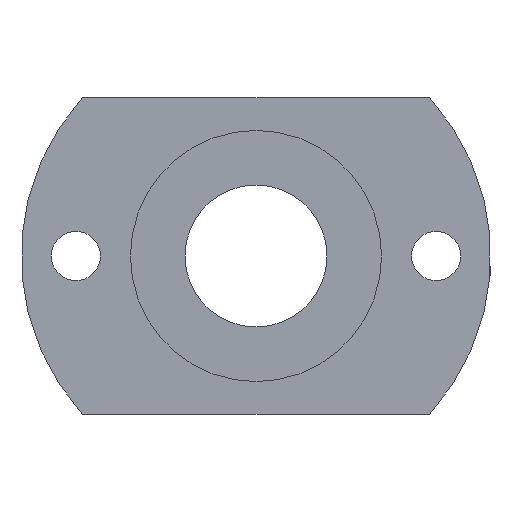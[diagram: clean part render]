
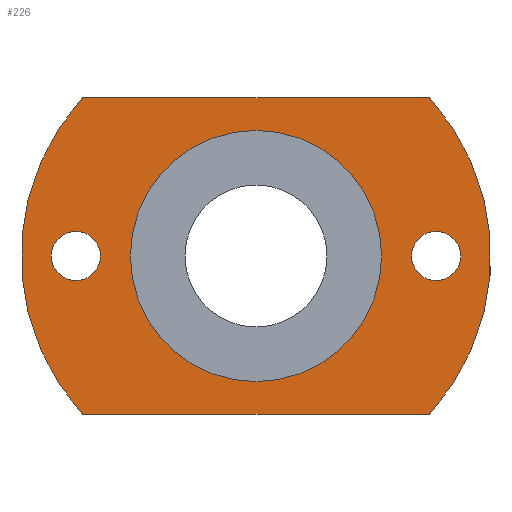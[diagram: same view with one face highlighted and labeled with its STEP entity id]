
A CAD part, left-side view. The second image highlights one B-rep face of the part: STEP entity #226.
In plain terms, the highlighted planar face has unit normal (-1, 0, 0).
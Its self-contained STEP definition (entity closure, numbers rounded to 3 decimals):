
#24=PLANE('',#267);
#31=LINE('',#392,#39);
#32=LINE('',#396,#40);
#39=VECTOR('',#326,1000.);
#40=VECTOR('',#329,1000.);
#64=ORIENTED_EDGE('',*,*,#108,.T.);
#65=ORIENTED_EDGE('',*,*,#109,.F.);
#66=ORIENTED_EDGE('',*,*,#110,.T.);
#67=ORIENTED_EDGE('',*,*,#93,.F.);
#68=ORIENTED_EDGE('',*,*,#111,.T.);
#69=ORIENTED_EDGE('',*,*,#112,.T.);
#70=ORIENTED_EDGE('',*,*,#100,.T.);
#93=EDGE_CURVE('',#117,#118,#136,.T.);
#100=EDGE_CURVE('',#124,#124,#142,.T.);
#108=EDGE_CURVE('',#117,#131,#31,.T.);
#109=EDGE_CURVE('',#132,#131,#148,.T.);
#110=EDGE_CURVE('',#132,#118,#32,.T.);
#111=EDGE_CURVE('',#133,#133,#149,.T.);
#112=EDGE_CURVE('',#134,#134,#150,.T.);
#117=VERTEX_POINT('',#356);
#118=VERTEX_POINT('',#358);
#124=VERTEX_POINT('',#374);
#131=VERTEX_POINT('',#393);
#132=VERTEX_POINT('',#395);
#133=VERTEX_POINT('',#398);
#134=VERTEX_POINT('',#400);
#136=CIRCLE('',#249,21.5);
#142=CIRCLE('',#258,11.5);
#148=CIRCLE('',#268,21.5);
#149=CIRCLE('',#269,2.25);
#150=CIRCLE('',#270,2.25);
#166=EDGE_LOOP('',(#64,#65,#66,#67));
#167=EDGE_LOOP('',(#68));
#168=EDGE_LOOP('',(#69));
#169=EDGE_LOOP('',(#70));
#196=FACE_BOUND('',#166,.T.);
#197=FACE_BOUND('',#167,.T.);
#198=FACE_BOUND('',#168,.T.);
#199=FACE_BOUND('',#169,.T.);
#226=ADVANCED_FACE('',(#196,#197,#198,#199),#24,.F.);
#249=AXIS2_PLACEMENT_3D('',#357,#285,#286);
#258=AXIS2_PLACEMENT_3D('',#373,#304,#305);
#267=AXIS2_PLACEMENT_3D('',#391,#324,#325);
#268=AXIS2_PLACEMENT_3D('',#394,#327,#328);
#269=AXIS2_PLACEMENT_3D('',#397,#330,#331);
#270=AXIS2_PLACEMENT_3D('',#399,#332,#333);
#285=DIRECTION('',(1.,0.,0.));
#286=DIRECTION('',(0.,0.,-1.));
#304=DIRECTION('',(1.,0.,0.));
#305=DIRECTION('',(0.,0.,-1.));
#324=DIRECTION('',(1.,0.,0.));
#325=DIRECTION('',(0.,0.,-1.));
#326=DIRECTION('',(0.,1.,0.));
#327=DIRECTION('',(1.,0.,0.));
#328=DIRECTION('',(0.,0.,-1.));
#329=DIRECTION('',(0.,-1.,0.));
#330=DIRECTION('',(1.,0.,0.));
#331=DIRECTION('',(0.,0.,-1.));
#332=DIRECTION('',(1.,0.,0.));
#333=DIRECTION('',(0.,0.,-1.));
#356=CARTESIAN_POINT('',(24.5,-15.875,14.5));
#357=CARTESIAN_POINT('',(24.5,0.,0.));
#358=CARTESIAN_POINT('',(24.5,-15.875,-14.5));
#373=CARTESIAN_POINT('',(24.5,0.,0.));
#374=CARTESIAN_POINT('',(24.5,0.,-11.5));
#391=CARTESIAN_POINT('',(24.5,0.,0.));
#392=CARTESIAN_POINT('',(24.5,28.596,14.5));
#393=CARTESIAN_POINT('',(24.5,15.875,14.5));
#394=CARTESIAN_POINT('',(24.5,0.,0.));
#395=CARTESIAN_POINT('',(24.5,15.875,-14.5));
#396=CARTESIAN_POINT('',(24.5,28.596,-14.5));
#397=CARTESIAN_POINT('',(24.5,-16.5,0.));
#398=CARTESIAN_POINT('',(24.5,-16.5,-2.25));
#399=CARTESIAN_POINT('',(24.5,16.5,0.));
#400=CARTESIAN_POINT('',(24.5,16.5,-2.25));
